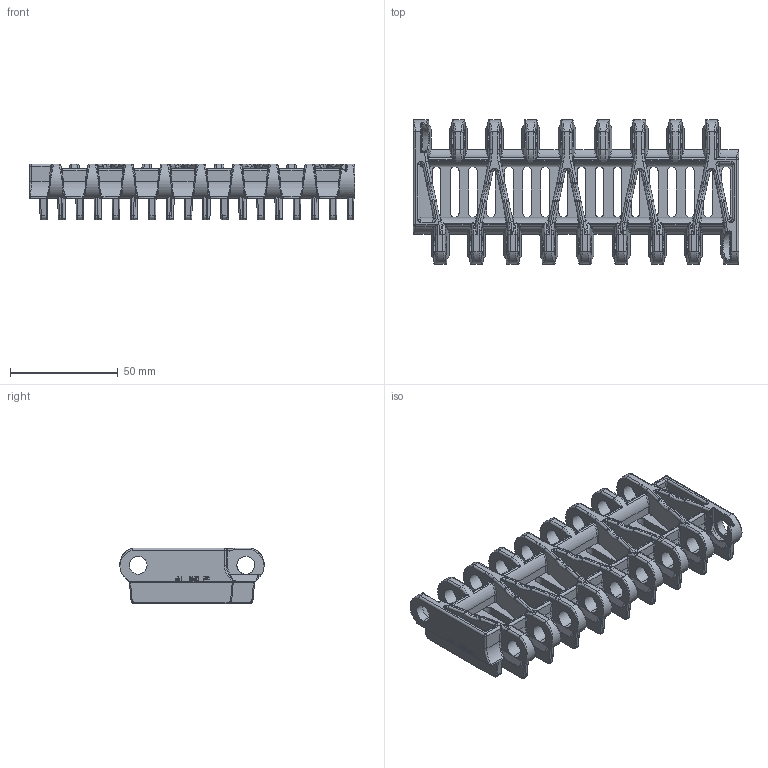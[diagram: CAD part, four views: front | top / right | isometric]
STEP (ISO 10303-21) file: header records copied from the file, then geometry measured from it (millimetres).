
FILE_DESCRIPTION((''),'2;1');
FILE_NAME('P279','2009-08-28T',('mth'),(''),'PRO/ENGINEER BY PARAMETRIC TECHNOLOGY CORPORATION, 2008490','PRO/ENGINEER BY PARAMETRIC TECHNOLOGY CORPORATION, 2008490','');
FILE_SCHEMA(('AUTOMOTIVE_DESIGN { 1 0 10303 214 1 1 1 1 }'));
Products named in the file (1): P279
Bounding box: 151 x 67 x 26 mm (x, y, z)
Volume: 82541.2 mm3; surface area: 53805.9 mm2
Topology: 1 solids, 1 shells, 2019 faces, 5201 edges, 3136 vertices
Faces by surface type: cylinder 708, plane 667, bspline 486, torus 83, sphere 40, cone 19, extrusion 16
Entity records: 106078 total; most frequent: CARTESIAN_POINT 46403, ORIENTED_EDGE 10330, DIRECTION 7574, PRESENTATION_STYLE_ASSIGNMENT 5166, STYLED_ITEM 5166, CURVE_STYLE 5165, EDGE_CURVE 5165, VERTEX_POINT 3136
